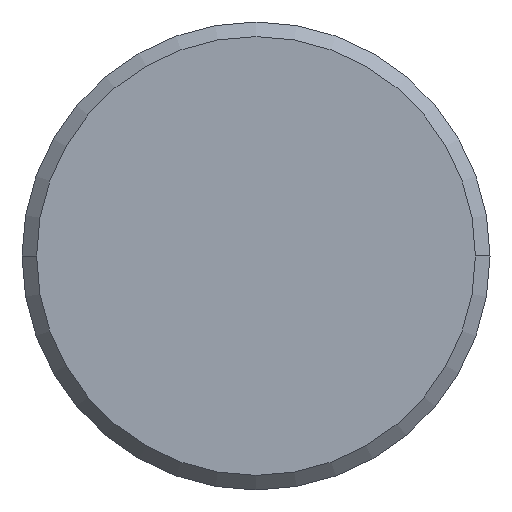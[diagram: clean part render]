
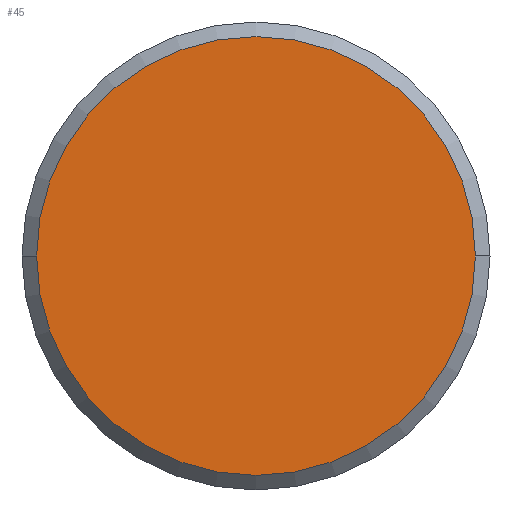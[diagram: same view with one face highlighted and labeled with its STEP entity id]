
A CAD part, left-side view. The second image highlights one B-rep face of the part: STEP entity #45.
In plain terms, the highlighted planar face has unit normal (-1, 0, 0).
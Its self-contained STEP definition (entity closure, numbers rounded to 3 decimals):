
#11 = AXIS2_PLACEMENT_3D ( 'NONE', #121, #314, #148 ) ;
#14 = FACE_OUTER_BOUND ( 'NONE', #160, .T. ) ;
#45 = ADVANCED_FACE ( 'NONE', ( #14 ), #199, .T. ) ;
#75 = ORIENTED_EDGE ( 'NONE', *, *, #340, .F. ) ;
#92 = CARTESIAN_POINT ( 'NONE',  ( -52., 0., 0. ) ) ;
#112 = AXIS2_PLACEMENT_3D ( 'NONE', #152, #341, #180 ) ;
#115 = AXIS2_PLACEMENT_3D ( 'NONE', #92, #283, #118 ) ;
#118 = DIRECTION ( 'NONE',  ( 0., -1., 0. ) ) ;
#121 = CARTESIAN_POINT ( 'NONE',  ( -52., 0., 0. ) ) ;
#141 = VERTEX_POINT ( 'NONE', #240 ) ;
#148 = DIRECTION ( 'NONE',  ( 0., 1., 0. ) ) ;
#152 = CARTESIAN_POINT ( 'NONE',  ( -52., 0., 0. ) ) ;
#160 = EDGE_LOOP ( 'NONE', ( #211, #75 ) ) ;
#180 = DIRECTION ( 'NONE',  ( 0., 1., 0. ) ) ;
#199 = PLANE ( 'NONE',  #115 ) ;
#211 = ORIENTED_EDGE ( 'NONE', *, *, #250, .F. ) ;
#219 = VERTEX_POINT ( 'NONE', #289 ) ;
#240 = CARTESIAN_POINT ( 'NONE',  ( -52., 7.5, 0. ) ) ;
#250 = EDGE_CURVE ( 'NONE', #141, #219, #335, .T. ) ;
#283 = DIRECTION ( 'NONE',  ( -1., 0., 0. ) ) ;
#289 = CARTESIAN_POINT ( 'NONE',  ( -52., -7.5, 0. ) ) ;
#314 = DIRECTION ( 'NONE',  ( 1., 0., 0. ) ) ;
#315 = CIRCLE ( 'NONE', #112, 7.5 ) ;
#335 = CIRCLE ( 'NONE', #11, 7.5 ) ;
#340 = EDGE_CURVE ( 'NONE', #219, #141, #315, .T. ) ;
#341 = DIRECTION ( 'NONE',  ( 1., 0., 0. ) ) ;
